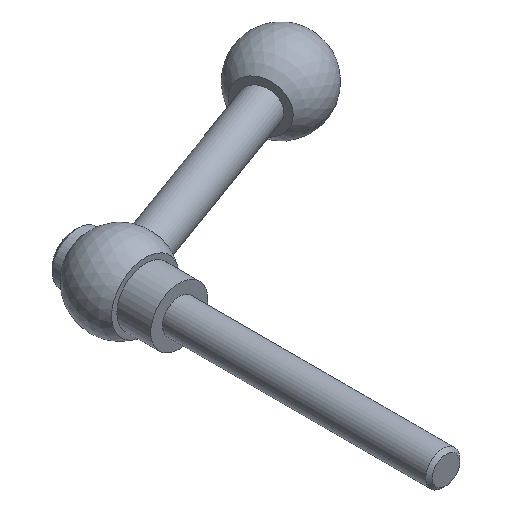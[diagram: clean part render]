
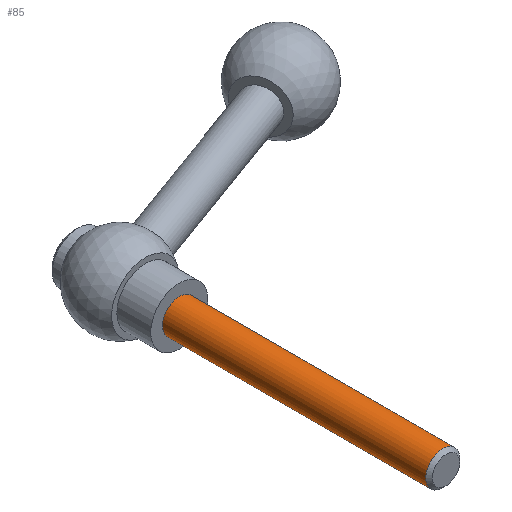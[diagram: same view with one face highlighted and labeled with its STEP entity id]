
A CAD part, isometric view. The second image highlights one B-rep face of the part: STEP entity #85.
In plain terms, the highlighted cylindrical face has radius 4 mm (diameter 8 mm), a full revolution.
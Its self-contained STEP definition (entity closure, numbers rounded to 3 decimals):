
#85 = ADVANCED_FACE( '', ( #118, #119 ), #120, .T. );
#118 = FACE_OUTER_BOUND( '', #156, .T. );
#119 = FACE_OUTER_BOUND( '', #157, .T. );
#120 = CYLINDRICAL_SURFACE( '', #158, 4. );
#156 = EDGE_LOOP( '', ( #214 ) );
#157 = EDGE_LOOP( '', ( #215 ) );
#158 = AXIS2_PLACEMENT_3D( '', #216, #217, #218 );
#214 = ORIENTED_EDGE( '', *, *, #240, .F. );
#215 = ORIENTED_EDGE( '', *, *, #239, .T. );
#216 = CARTESIAN_POINT( '', ( 0., -63., 0. ) );
#217 = DIRECTION( '', ( 0., 1., 0. ) );
#218 = DIRECTION( '', ( 0., 0., -1. ) );
#239 = EDGE_CURVE( '', #262, #262, #263, .T. );
#240 = EDGE_CURVE( '', #264, #264, #265, .T. );
#262 = VERTEX_POINT( '', #351 );
#263 = CIRCLE( '', #352, 4. );
#264 = VERTEX_POINT( '', #353 );
#265 = CIRCLE( '', #354, 4. );
#351 = CARTESIAN_POINT( '', ( 0., 0., -4. ) );
#352 = AXIS2_PLACEMENT_3D( '', #382, #383, #384 );
#353 = CARTESIAN_POINT( '', ( 0., -62.233, -4. ) );
#354 = AXIS2_PLACEMENT_3D( '', #385, #386, #387 );
#382 = CARTESIAN_POINT( '', ( 0., 0., 0. ) );
#383 = DIRECTION( '', ( 0., -1., 0. ) );
#384 = DIRECTION( '', ( 0., 0., -1. ) );
#385 = CARTESIAN_POINT( '', ( 0., -62.233, 0. ) );
#386 = DIRECTION( '', ( 0., -1., 0. ) );
#387 = DIRECTION( '', ( 0., 0., -1. ) );
